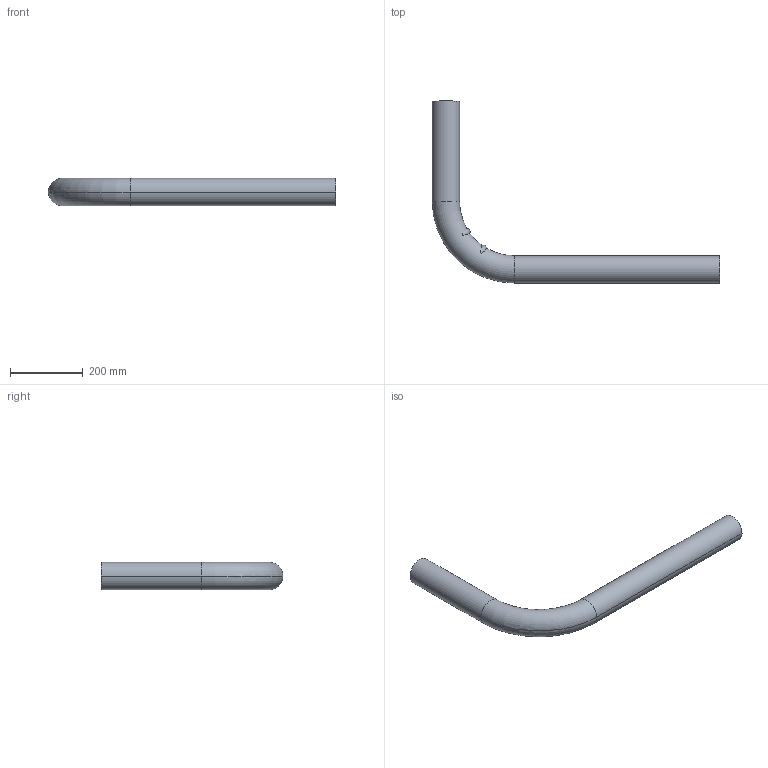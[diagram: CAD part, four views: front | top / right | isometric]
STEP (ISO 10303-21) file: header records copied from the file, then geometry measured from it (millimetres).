
FILE_DESCRIPTION (( 'STEP AP214' ), '1' );
FILE_NAME ('KP_3-75-63SCECL.STEP', '2023-10-10T11:08:39', ( '' ), ( '' ), 'SwSTEP 2.0', 'SolidWorks 2022', '' );
FILE_SCHEMA (( 'AUTOMOTIVE_DESIGN' ));
Length unit declared in the file: millimetre
Products named in the file (3): 63 Conductive-L2; Ytter bend 75-L2; KP_3-75-63SCECL
Assembly tree (2 placements, depth 2):
  KP_3-75-63SCECL
    Ytter bend 75-L2
    63 Conductive-L2
Bounding box: 790 x 500 x 75 mm (x, y, z)
Volume: 2111864.4 mm3; surface area: 920718.1 mm2
Topology: 2 solids, 2 shells, 32 faces, 68 edges, 40 vertices
Faces by surface type: cylinder 16, torus 12, plane 4
Entity records: 1548 total; most frequent: CARTESIAN_POINT 723, DIRECTION 178, ORIENTED_EDGE 136, AXIS2_PLACEMENT_3D 81, EDGE_CURVE 68, CIRCLE 44, VERTEX_POINT 40, EDGE_LOOP 36
